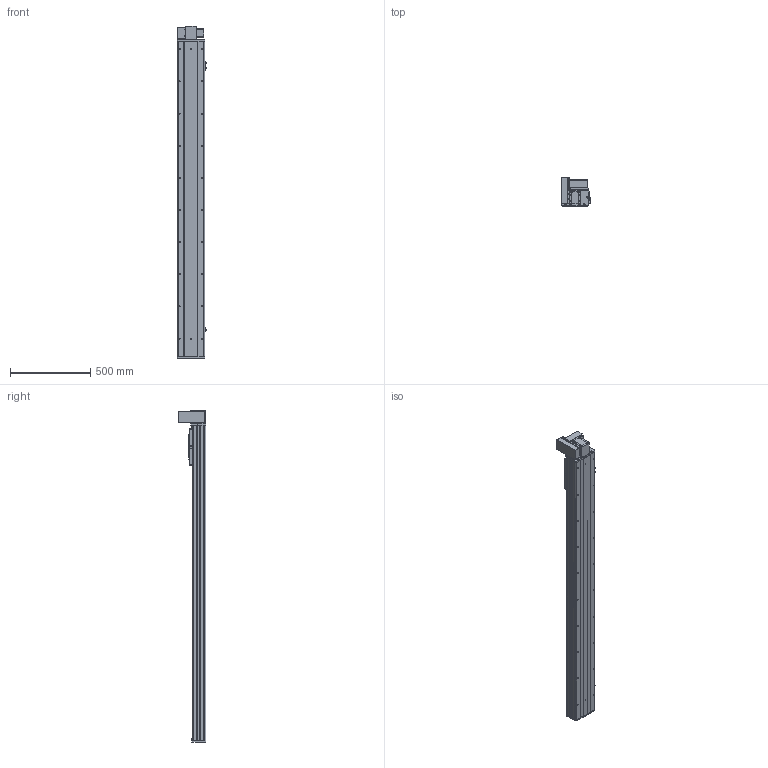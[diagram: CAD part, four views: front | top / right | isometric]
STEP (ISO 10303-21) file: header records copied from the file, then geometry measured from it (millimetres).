
FILE_DESCRIPTION (( 'STEP AP203' ), '1' );
FILE_NAME ('Y170CB-D105-S1650-UL-P400W.STEP', '2020-02-20T02:35:17', ( '微软用户' ), ( '微软中国' ), 'SwSTEP 2.0', 'SolidWorks 2017', '' );
FILE_SCHEMA (( 'CONFIG_CONTROL_DESIGN' ));
Length unit declared in the file: millimetre
Products named in the file (18): san松下电机400不带刹车----; Y100-135俋离換覜ん--; 70CB-掛极-; Y170CB-陔俋离換覜結え---; --70CB --喘謫眊楊擘啣-; 70B喘謫眊----; 70CB-耜裔啣-; Y1埴倛裔; 70C--詩湍揤踡え-; 17B-耜蚾蟀諉啣----; 70CB--耜裔; 00B-俋欶BM--163; 70C-雄赽釱-奻-; B-源倛裔啣; Y170CB-D105-S1650-UL-P400W; 0C--雄赽釱俋欶-170; 0B-萇儂楊擘啣; 70CB-詩湍--
Assembly tree (21 placements, depth 2):
  Y170CB-D105-S1650-UL-P400W
    B-源倛裔啣
    0B-萇儂楊擘啣
    san松下电机400不带刹车----
    70CB-掛极-
    --70CB --喘謫眊楊擘啣-
    70CB-耜裔啣-  x2
    70C--詩湍揤踡え-  x2
    70CB--耜裔
    70C-雄赽釱-奻-
    0C--雄赽釱俋欶-170
    70CB-詩湍--
    Y100-135俋离換覜ん--  x3
    Y170CB-陔俋离換覜結え---
    70B喘謫眊----
    Y1埴倛裔
    17B-耜蚾蟀諉啣----
    00B-俋欶BM--163
Bounding box: 183.5 x 174 x 2066 mm (x, y, z)
Volume: 9099164.2 mm3; surface area: 3275508.5 mm2
Topology: 21 solids, 21 shells, 1031 faces, 2765 edges, 1834 vertices
Faces by surface type: cylinder 545, plane 462, cone 24
Entity records: 32912 total; most frequent: CARTESIAN_POINT 6036, DIRECTION 5354, ORIENTED_EDGE 5012, EDGE_CURVE 2506, AXIS2_PLACEMENT_3D 1968, VERTEX_POINT 1664, VECTOR 1418, LINE 1418
